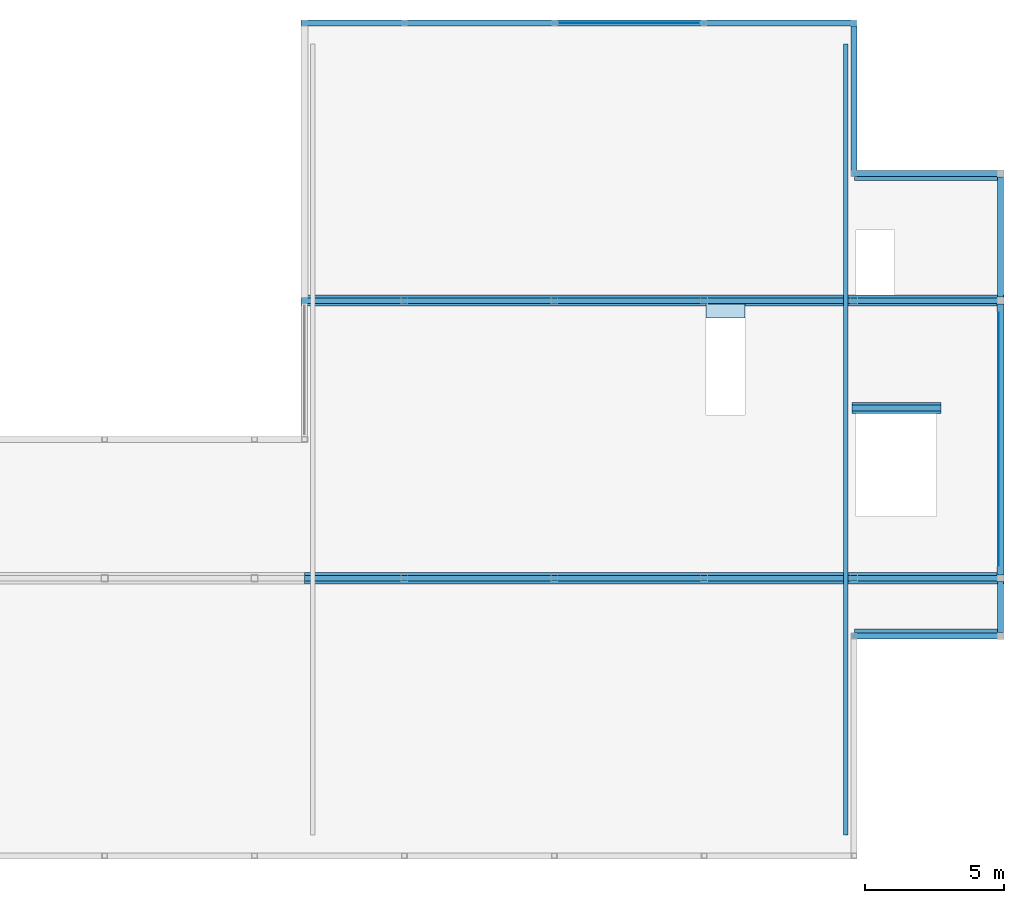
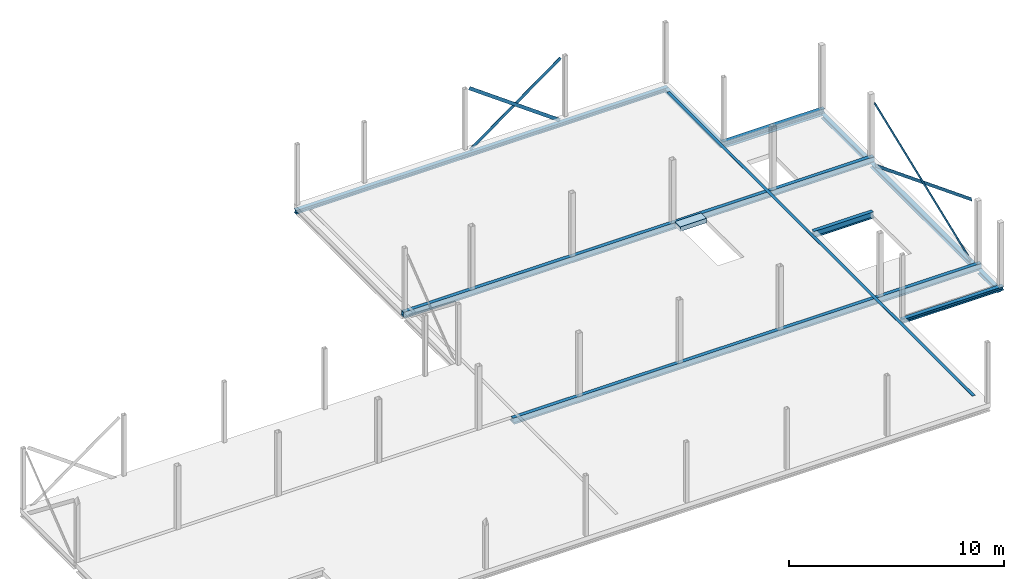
# One storey, part 7 of 7: 15 beams, 1 slab.
"""IFC2X3 building model written with IfcOpenShell, lengths in millimetres."""

from ifc_helpers import new_model, entity, si_unit, converted_unit, derived_unit, direction, frame, frame_2d, origin, origin_2d_with_axis, place, context, subcontext, project, spatial, polyline, circle_curve, parameter, trimmed, segment, composite_curve, rectangle, i_section, outline, extrude, boolean, source, transform, mapped, material, layer, layer_set, layer_usage, type_object, type_shapes, element, save


model = new_model("IFC2X3")

# Units and contexts
model_context = context("Model", 3, precision=0.01, world=origin(), true_north=direction((6.123031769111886e-17, 1.0)))
body_context = subcontext(model_context, "Body", "Model", "MODEL_VIEW")
ifc_project = project(units=[si_unit("LENGTHUNIT", "METRE", prefix="MILLI"), si_unit("AREAUNIT", "SQUARE_METRE"), si_unit("VOLUMEUNIT", "CUBIC_METRE"), converted_unit("PLANEANGLEUNIT", "DEGREE", entity("IfcPlaneAngleMeasure", 0.017453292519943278), si_unit("PLANEANGLEUNIT", "RADIAN"), dimensions=[0, 0, 0, 0, 0, 0, 0]), si_unit("MASSUNIT", "GRAM", prefix="KILO"), derived_unit("MASSDENSITYUNIT", [(si_unit("MASSUNIT", "GRAM", prefix="KILO"), 1), (si_unit("LENGTHUNIT", "METRE"), -3)]), derived_unit("IONCONCENTRATIONUNIT", [(si_unit("MASSUNIT", "GRAM", prefix="KILO"), 1), (si_unit("LENGTHUNIT", "METRE"), -3)]), derived_unit("MOMENTOFINERTIAUNIT", [(si_unit("LENGTHUNIT", "METRE"), 4)]), si_unit("TIMEUNIT", "SECOND"), si_unit("FREQUENCYUNIT", "HERTZ"), si_unit("THERMODYNAMICTEMPERATUREUNIT", "DEGREE_CELSIUS"), derived_unit("THERMALTRANSMITTANCEUNIT", [(si_unit("MASSUNIT", "GRAM", prefix="KILO"), 1), (si_unit("THERMODYNAMICTEMPERATUREUNIT", "KELVIN"), -1), (si_unit("TIMEUNIT", "SECOND"), -3)]), derived_unit("THERMALCONDUCTANCEUNIT", [(si_unit("MASSUNIT", "GRAM", prefix="KILO"), 1), (si_unit("THERMODYNAMICTEMPERATUREUNIT", "KELVIN"), -1), (si_unit("TIMEUNIT", "SECOND"), -3), (si_unit("LENGTHUNIT", "METRE"), 1)]), derived_unit("VOLUMETRICFLOWRATEUNIT", [(si_unit("LENGTHUNIT", "METRE", prefix="DECI"), 3), (si_unit("TIMEUNIT", "SECOND"), -1)]), derived_unit("MASSFLOWRATEUNIT", [(si_unit("MASSUNIT", "GRAM", prefix="KILO"), 1), (si_unit("TIMEUNIT", "SECOND"), -1)]), derived_unit("ROTATIONALFREQUENCYUNIT", [(si_unit("TIMEUNIT", "SECOND"), -1)]), si_unit("ELECTRICCURRENTUNIT", "AMPERE"), si_unit("ELECTRICVOLTAGEUNIT", "VOLT"), si_unit("POWERUNIT", "WATT"), si_unit("FORCEUNIT", "NEWTON", prefix="KILO"), si_unit("ILLUMINANCEUNIT", "LUX"), si_unit("LUMINOUSFLUXUNIT", "LUMEN"), si_unit("LUMINOUSINTENSITYUNIT", "CANDELA"), si_unit("ENERGYUNIT", "JOULE"), derived_unit("USERDEFINED", [(si_unit("MASSUNIT", "GRAM", prefix="KILO"), -1), (si_unit("LENGTHUNIT", "METRE"), -2), (si_unit("TIMEUNIT", "SECOND"), 3), (si_unit("LUMINOUSFLUXUNIT", "LUMEN"), 1)]), derived_unit("USERDEFINED", [(si_unit("MASSUNIT", "GRAM", prefix="KILO"), 1), (si_unit("TIMEUNIT", "SECOND"), -3), (si_unit("LENGTHUNIT", "METRE"), 3), (si_unit("ELECTRICCURRENTUNIT", "AMPERE"), -2)]), derived_unit("SOUNDPOWERUNIT", [(si_unit("MASSUNIT", "GRAM", prefix="KILO"), 1), (si_unit("TIMEUNIT", "SECOND"), -3), (si_unit("LENGTHUNIT", "METRE"), 2)]), derived_unit("SOUNDPRESSUREUNIT", [(si_unit("MASSUNIT", "GRAM", prefix="KILO"), 1), (si_unit("LENGTHUNIT", "METRE"), -1), (si_unit("TIMEUNIT", "SECOND"), -2)]), derived_unit("LINEARVELOCITYUNIT", [(si_unit("LENGTHUNIT", "METRE"), 1), (si_unit("TIMEUNIT", "SECOND"), -1)]), si_unit("PRESSUREUNIT", "PASCAL"), derived_unit("USERDEFINED", [(si_unit("MASSUNIT", "GRAM", prefix="KILO"), 1), (si_unit("LENGTHUNIT", "METRE"), -2), (si_unit("TIMEUNIT", "SECOND"), -2)]), derived_unit("LINEARFORCEUNIT", [(si_unit("MASSUNIT", "GRAM", prefix="KILO"), 1), (si_unit("TIMEUNIT", "SECOND"), -2)]), derived_unit("PLANARFORCEUNIT", [(si_unit("MASSUNIT", "GRAM", prefix="KILO"), 1), (si_unit("LENGTHUNIT", "METRE"), -1), (si_unit("TIMEUNIT", "SECOND"), -2)]), derived_unit("SPECIFICHEATCAPACITYUNIT", [(si_unit("THERMODYNAMICTEMPERATUREUNIT", "KELVIN"), -1), (si_unit("LENGTHUNIT", "METRE"), 2), (si_unit("TIMEUNIT", "SECOND"), -2)]), derived_unit("HEATFLUXDENSITYUNIT", [(si_unit("MASSUNIT", "GRAM", prefix="KILO"), 1), (si_unit("TIMEUNIT", "SECOND"), -3)]), derived_unit("HEATINGVALUEUNIT", [(si_unit("LENGTHUNIT", "METRE"), 2), (si_unit("TIMEUNIT", "SECOND"), -2)]), derived_unit("VAPORPERMEABILITYUNIT", [(si_unit("LENGTHUNIT", "METRE"), -1), (si_unit("TIMEUNIT", "SECOND"), 1)]), derived_unit("DYNAMICVISCOSITYUNIT", [(si_unit("MASSUNIT", "GRAM", prefix="KILO"), 1), (si_unit("TIMEUNIT", "SECOND"), -1), (si_unit("LENGTHUNIT", "METRE"), -1)]), derived_unit("THERMALEXPANSIONCOEFFICIENTUNIT", [(si_unit("THERMODYNAMICTEMPERATUREUNIT", "KELVIN"), -1)]), derived_unit("MODULUSOFELASTICITYUNIT", [(si_unit("MASSUNIT", "GRAM", prefix="KILO"), 1), (si_unit("LENGTHUNIT", "METRE"), -1), (si_unit("TIMEUNIT", "SECOND"), -2)]), derived_unit("ISOTHERMALMOISTURECAPACITYUNIT", [(si_unit("MASSUNIT", "GRAM", prefix="KILO"), -1), (si_unit("LENGTHUNIT", "METRE"), 3)]), derived_unit("MOISTUREDIFFUSIVITYUNIT", [(si_unit("TIMEUNIT", "SECOND"), -1), (si_unit("LENGTHUNIT", "METRE"), 2)]), derived_unit("MASSPERLENGTHUNIT", [(si_unit("MASSUNIT", "GRAM", prefix="KILO"), 1), (si_unit("LENGTHUNIT", "METRE"), -1)]), derived_unit("THERMALRESISTANCEUNIT", [(si_unit("MASSUNIT", "GRAM", prefix="KILO"), -1), (si_unit("TIMEUNIT", "SECOND"), 3), (si_unit("THERMODYNAMICTEMPERATUREUNIT", "KELVIN"), 1)]), derived_unit("ACCELERATIONUNIT", [(si_unit("LENGTHUNIT", "METRE"), 1), (si_unit("TIMEUNIT", "SECOND"), -2)]), derived_unit("ANGULARVELOCITYUNIT", [(si_unit("TIMEUNIT", "SECOND"), -1), (si_unit("PLANEANGLEUNIT", "RADIAN"), 1)]), derived_unit("LINEARSTIFFNESSUNIT", [(si_unit("MASSUNIT", "GRAM", prefix="KILO"), 1), (si_unit("TIMEUNIT", "SECOND"), -2)]), derived_unit("WARPINGCONSTANTUNIT", [(si_unit("LENGTHUNIT", "METRE"), 6)]), derived_unit("LINEARMOMENTUNIT", [(si_unit("MASSUNIT", "GRAM", prefix="KILO"), 1), (si_unit("LENGTHUNIT", "METRE"), 1), (si_unit("TIMEUNIT", "SECOND"), -2)]), derived_unit("TORQUEUNIT", [(si_unit("MASSUNIT", "GRAM", prefix="KILO"), 1), (si_unit("LENGTHUNIT", "METRE"), 2), (si_unit("TIMEUNIT", "SECOND"), -2)])], contexts=[model_context])

# Site, building, storey
site_placement = place(None, origin())
site = spatial("IfcSite", under=ifc_project, at=site_placement, Name="Default", CompositionType="ELEMENT")
building_placement = place(site_placement, origin())
building = spatial("IfcBuilding", under=site, at=building_placement, CompositionType="ELEMENT")
storey_placement = place(building_placement, frame((0.0, 0.0, 4000.0)))
storey = spatial("IfcBuildingStorey", under=building, at=storey_placement, Name="01 eerste verdieping", CompositionType="ELEMENT", Elevation=4000.0000000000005)

# Beams
ifc_material_1 = material(Name="VRI_staal")
beam_type_1 = type_object("IfcBeamType", Name="28_SFR_VRI_balk_staal_H:HEB220", PredefinedType="NOTDEFINED")
beam_1_placement = place(storey_placement, frame((33400.0, 40000.0, -345.0)))
element("IfcBeam", 1, at=beam_1_placement, inside=storey, type_object=beam_type_1, material=ifc_material_1, Name="28_SFR_VRI_balk_staal_H:HEB220", ObjectType="28_SFR_VRI_balk_staal_H:HEB220", context=body_context, shape_type="SweptSolid", body=[
    extrude(outline(composite_curve([segment(polyline([(94.0, -110.0), (110.0, -110.0)]), True, "CONTINUOUS"), segment(polyline([(110.0, -110.0), (110.0, 110.0)]), True, "CONTINUOUS"), segment(polyline([(110.0, 110.0), (94.0, 110.0)]), True, "CONTINUOUS"), segment(polyline([(94.0, 110.0), (94.0, 22.750000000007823)]), True, "CONTINUOUS"), segment(trimmed(circle_curve(frame_2d((76.0, 22.750000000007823), x_axis=(1.0, 0.0)), 17.999999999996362), [parameter(269.99999999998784)], [parameter(0.0)], True, "PARAMETER"), False, "CONTINUOUS"), segment(polyline([(76.0, 4.750000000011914), (-76.0, 4.750000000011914)]), True, "CONTINUOUS"), segment(trimmed(circle_curve(frame_2d((-76.0, 22.750000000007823), x_axis=(0.0, -1.0)), 17.9999999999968), [parameter(269.9999999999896)], [parameter(0.0)], True, "PARAMETER"), False, "CONTINUOUS"), segment(polyline([(-94.0, 22.750000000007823), (-94.0, 110.0)]), True, "CONTINUOUS"), segment(polyline([(-94.0, 110.0), (-110.0, 110.0)]), True, "CONTINUOUS"), segment(polyline([(-110.0, 110.0), (-110.0, -110.0)]), True, "CONTINUOUS"), segment(polyline([(-110.0, -110.0), (-94.0, -110.0)]), True, "CONTINUOUS"), segment(polyline([(-94.0, -110.0), (-94.0, -22.749999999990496)]), True, "CONTINUOUS"), segment(trimmed(circle_curve(frame_2d((-76.0, -22.749999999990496), x_axis=(-1.0, 0.0)), 17.9999999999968), [parameter(269.9999999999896)], [parameter(0.0)], True, "PARAMETER"), False, "CONTINUOUS"), segment(polyline([(-76.0, -4.749999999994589), (76.0, -4.749999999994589)]), True, "CONTINUOUS"), segment(trimmed(circle_curve(frame_2d((76.0, -22.749999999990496), x_axis=(0.0, 1.0)), 17.999999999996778), [parameter(269.9999999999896)], [parameter(0.0)], True, "PARAMETER"), False, "CONTINUOUS"), segment(polyline([(94.0, -22.749999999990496), (94.0, -110.0)]), True, "CONTINUOUS")], self_intersect=False)), frame((-120.0, 0.0, -110.0), z_axis=(1.0, 0.0, 0.0), x_axis=(0.0, 0.0, -1.0)), (0.0, 0.0, 1.0), 20030.000000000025),
])
beam_2_placement = place(storey_placement, frame((58475.0, 30000.0, -345.0), z_axis=(0.0, 0.0, 1.0), x_axis=(0.0, 1.0, 0.0)))
element("IfcBeam", 2, at=beam_2_placement, inside=storey, type_object=beam_type_1, material=ifc_material_1, Name="28_SFR_VRI_balk_staal_H:HEB220", ObjectType="28_SFR_VRI_balk_staal_H:HEB220", context=body_context, shape_type="SweptSolid", body=[
    extrude(outline(composite_curve([segment(polyline([(94.0, -110.0), (110.0, -110.0)]), True, "CONTINUOUS"), segment(polyline([(110.0, -110.0), (110.0, 110.0)]), True, "CONTINUOUS"), segment(polyline([(110.0, 110.0), (94.0, 110.0)]), True, "CONTINUOUS"), segment(polyline([(94.0, 110.0), (94.0, 22.749999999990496)]), True, "CONTINUOUS"), segment(trimmed(circle_curve(frame_2d((76.0, 22.749999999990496), x_axis=(1.0, 0.0)), 17.999999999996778), [parameter(269.9999999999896)], [parameter(0.0)], True, "PARAMETER"), False, "CONTINUOUS"), segment(polyline([(76.0, 4.749999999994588), (-76.0, 4.749999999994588)]), True, "CONTINUOUS"), segment(trimmed(circle_curve(frame_2d((-76.0, 22.749999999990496), x_axis=(0.0, -1.0)), 17.9999999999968), [parameter(269.9999999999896)], [parameter(0.0)], True, "PARAMETER"), False, "CONTINUOUS"), segment(polyline([(-94.0, 22.749999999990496), (-94.0, 110.0)]), True, "CONTINUOUS"), segment(polyline([(-94.0, 110.0), (-110.0, 110.0)]), True, "CONTINUOUS"), segment(polyline([(-110.0, 110.0), (-110.0, -110.0)]), True, "CONTINUOUS"), segment(polyline([(-110.0, -110.0), (-94.0, -110.0)]), True, "CONTINUOUS"), segment(polyline([(-94.0, -110.0), (-94.0, -22.750000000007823)]), True, "CONTINUOUS"), segment(trimmed(circle_curve(frame_2d((-76.0, -22.750000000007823), x_axis=(-1.0, 0.0)), 17.9999999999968), [parameter(269.9999999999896)], [parameter(0.0)], True, "PARAMETER"), False, "CONTINUOUS"), segment(polyline([(-76.0, -4.750000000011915), (76.0, -4.750000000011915)]), True, "CONTINUOUS"), segment(trimmed(circle_curve(frame_2d((76.0, -22.750000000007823), x_axis=(0.0, 1.0)), 17.999999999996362), [parameter(269.99999999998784)], [parameter(0.0)], True, "PARAMETER"), False, "CONTINUOUS"), segment(polyline([(94.0, -22.750000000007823), (94.0, -110.0)]), True, "CONTINUOUS")], self_intersect=False)), frame((125.0, 0.0, -110.0), z_axis=(1.0, 0.0, 0.0), x_axis=(0.0, 0.0, -1.0)), (0.0, 0.0, 1.0), 4324.999999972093),
])
beam_3_placement = place(storey_placement, frame((58475.0, 20000.0, -345.0), z_axis=(0.0, 0.0, 1.0), x_axis=(0.0, -1.0, 0.0)))
element("IfcBeam", 3, at=beam_3_placement, inside=storey, type_object=beam_type_1, material=ifc_material_1, Name="28_SFR_VRI_balk_staal_H:HEB220", ObjectType="28_SFR_VRI_balk_staal_H:HEB220", context=body_context, shape_type="SweptSolid", body=[
    extrude(outline(composite_curve([segment(polyline([(94.0, -110.0), (110.0, -110.0)]), True, "CONTINUOUS"), segment(polyline([(110.0, -110.0), (110.0, 110.0)]), True, "CONTINUOUS"), segment(polyline([(110.0, 110.0), (94.0, 110.0)]), True, "CONTINUOUS"), segment(polyline([(94.0, 110.0), (94.0, 22.7499999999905)]), True, "CONTINUOUS"), segment(trimmed(circle_curve(frame_2d((76.0, 22.7499999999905), x_axis=(1.0, 0.0)), 17.999999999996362), [parameter(269.99999999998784)], [parameter(0.0)], True, "PARAMETER"), False, "CONTINUOUS"), segment(polyline([(76.0, 4.749999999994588), (-76.0, 4.749999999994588)]), True, "CONTINUOUS"), segment(trimmed(circle_curve(frame_2d((-76.0, 22.7499999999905), x_axis=(0.0, -1.0)), 17.9999999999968), [parameter(269.9999999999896)], [parameter(0.0)], True, "PARAMETER"), False, "CONTINUOUS"), segment(polyline([(-94.0, 22.7499999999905), (-94.0, 110.0)]), True, "CONTINUOUS"), segment(polyline([(-94.0, 110.0), (-110.0, 110.0)]), True, "CONTINUOUS"), segment(polyline([(-110.0, 110.0), (-110.0, -110.0)]), True, "CONTINUOUS"), segment(polyline([(-110.0, -110.0), (-94.0, -110.0)]), True, "CONTINUOUS"), segment(polyline([(-94.0, -110.0), (-94.0, -22.75000000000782)]), True, "CONTINUOUS"), segment(trimmed(circle_curve(frame_2d((-76.0, -22.75000000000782), x_axis=(-1.0, 0.0)), 17.9999999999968), [parameter(269.9999999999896)], [parameter(0.0)], True, "PARAMETER"), False, "CONTINUOUS"), segment(polyline([(-76.0, -4.750000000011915), (76.0, -4.750000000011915)]), True, "CONTINUOUS"), segment(trimmed(circle_curve(frame_2d((76.0, -22.75000000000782), x_axis=(0.0, 1.0)), 17.999999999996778), [parameter(269.9999999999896)], [parameter(0.0)], True, "PARAMETER"), False, "CONTINUOUS"), segment(polyline([(94.0, -22.75000000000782), (94.0, -110.0)]), True, "CONTINUOUS")], self_intersect=False)), frame((125.0, 0.0, -110.0), z_axis=(1.0, 0.0, 0.0), x_axis=(0.0, 0.0, -1.0)), (0.0, 0.0, 1.0), 1825.0000000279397),
])
beam_4_placement = place(storey_placement, frame((53200.0, 40000.0, -345.0), z_axis=(0.0, 0.0, 1.0), x_axis=(0.0, -1.0, 0.0)))
element("IfcBeam", 4, at=beam_4_placement, inside=storey, type_object=beam_type_1, material=ifc_material_1, Name="28_SFR_VRI_balk_staal_H:HEB220", ObjectType="28_SFR_VRI_balk_staal_H:HEB220", context=body_context, shape_type="SweptSolid", body=[
    extrude(outline(composite_curve([segment(polyline([(94.0, -110.0), (110.0, -110.0)]), True, "CONTINUOUS"), segment(polyline([(110.0, -110.0), (110.0, 110.0)]), True, "CONTINUOUS"), segment(polyline([(110.0, 110.0), (94.0, 110.0)]), True, "CONTINUOUS"), segment(polyline([(94.0, 110.0), (94.0, 22.749999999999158)]), True, "CONTINUOUS"), segment(trimmed(circle_curve(frame_2d((76.0, 22.749999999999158), x_axis=(1.0, 0.0)), 17.999999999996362), [parameter(269.99999999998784)], [parameter(0.0)], True, "PARAMETER"), False, "CONTINUOUS"), segment(polyline([(76.0, 4.750000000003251), (-76.0, 4.750000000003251)]), True, "CONTINUOUS"), segment(trimmed(circle_curve(frame_2d((-76.0, 22.749999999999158), x_axis=(0.0, -1.0)), 17.9999999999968), [parameter(269.9999999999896)], [parameter(0.0)], True, "PARAMETER"), False, "CONTINUOUS"), segment(polyline([(-94.0, 22.749999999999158), (-94.0, 110.0)]), True, "CONTINUOUS"), segment(polyline([(-94.0, 110.0), (-110.0, 110.0)]), True, "CONTINUOUS"), segment(polyline([(-110.0, 110.0), (-110.0, -110.0)]), True, "CONTINUOUS"), segment(polyline([(-110.0, -110.0), (-94.0, -110.0)]), True, "CONTINUOUS"), segment(polyline([(-94.0, -110.0), (-94.0, -22.74999999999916)]), True, "CONTINUOUS"), segment(trimmed(circle_curve(frame_2d((-76.0, -22.74999999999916), x_axis=(-1.0, 0.0)), 17.9999999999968), [parameter(269.9999999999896)], [parameter(0.0)], True, "PARAMETER"), False, "CONTINUOUS"), segment(polyline([(-76.0, -4.7500000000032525), (76.0, -4.7500000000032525)]), True, "CONTINUOUS"), segment(trimmed(circle_curve(frame_2d((76.0, -22.74999999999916), x_axis=(0.0, 1.0)), 17.999999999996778), [parameter(269.9999999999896)], [parameter(0.0)], True, "PARAMETER"), False, "CONTINUOUS"), segment(polyline([(94.0, -22.74999999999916), (94.0, -110.0)]), True, "CONTINUOUS")], self_intersect=False)), frame((110.0, 0.0, -110.0), z_axis=(1.0, 0.0, 0.0), x_axis=(0.0, 0.0, -1.0)), (0.0, 0.0, 1.0), 5215.000000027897),
])
beam_type_2 = type_object("IfcBeamType", Name="28_SFR_VRI_balk_staal_THQ:THQ265x8-190x20-400x20", PredefinedType="NOTDEFINED")
beam_5_placement = place(storey_placement, frame((33400.0, 30000.0, -80.0)))
element("IfcBeam", 5, at=beam_5_placement, inside=storey, type_object=beam_type_2, material=ifc_material_1, Name="28_SFR_VRI_balk_staal_THQ:THQ265x8-190x20-400x20", ObjectType="28_SFR_VRI_balk_staal_THQ:THQ265x8-190x20-400x20", context=body_context, shape_type="SweptSolid", body=[
    boolean("DIFFERENCE", extrude(outline(polyline([(61.250000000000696, -200.0), (81.24999999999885, -200.0), (81.24999999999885, 200.0), (61.24999999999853, 200.0), (61.24999999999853, 103.0), (-203.74999999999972, 103.0), (-203.74999999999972, -103.0), (61.250000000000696, -103.0), (61.250000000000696, -200.0)])), frame((-120.0, 0.0, -203.75000000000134), z_axis=(1.0, 0.0, 0.0), x_axis=(0.0, 0.0, -1.0)), (0.0, 0.0, 1.0), 25319.999999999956), extrude(rectangle(XDim=245.00000000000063, YDim=190.0000000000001, at=frame_2d((0.0, 0.0), x_axis=(0.0, 1.0))), frame((25200.0, 0.0, -142.50000000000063), z_axis=(-1.0, 0.0, 0.0), x_axis=(0.0, 1.0, 0.0)), (0.0, 0.0, 1.0), 25319.999999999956)),
])
beam_6_placement = place(storey_placement, frame((33400.0, 20000.0, -80.0)))
element("IfcBeam", 6, at=beam_6_placement, inside=storey, type_object=beam_type_2, material=ifc_material_1, Name="28_SFR_VRI_balk_staal_THQ:THQ265x8-190x20-400x20", ObjectType="28_SFR_VRI_balk_staal_THQ:THQ265x8-190x20-400x20", context=body_context, shape_type="SweptSolid", body=[
    boolean("DIFFERENCE", extrude(outline(polyline([(61.250000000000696, -200.0), (81.24999999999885, -200.0), (81.24999999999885, 200.0), (61.24999999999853, 200.0), (61.24999999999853, 103.0), (-203.74999999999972, 103.0), (-203.74999999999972, -103.0), (61.250000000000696, -103.0), (61.250000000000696, -200.0)])), frame((0.0, 0.0, -203.75000000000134), z_axis=(1.0, 0.0, 0.0), x_axis=(0.0, 0.0, -1.0)), (0.0, 0.0, 1.0), 25199.99999999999), extrude(rectangle(XDim=245.00000000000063, YDim=190.0000000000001, at=frame_2d((0.0, 0.0), x_axis=(0.0, 1.0))), frame((25200.0, 0.0, -142.50000000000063), z_axis=(-1.0, 0.0, 0.0), x_axis=(0.0, 1.0, 0.0)), (0.0, 0.0, 1.0), 25199.99999999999)),
])
beam_7_placement = place(storey_placement, frame((53200.0, 26130.0, -80.0)))
element("IfcBeam", 7, at=beam_7_placement, inside=storey, type_object=beam_type_2, material=ifc_material_1, Name="28_SFR_VRI_balk_staal_THQ:THQ265x8-190x20-400x20", ObjectType="28_SFR_VRI_balk_staal_THQ:THQ265x8-190x20-400x20", context=body_context, shape_type="SweptSolid", body=[
    boolean("DIFFERENCE", extrude(outline(polyline([(61.250000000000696, -200.0), (81.24999999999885, -200.0), (81.24999999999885, 200.0), (61.24999999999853, 200.0), (61.24999999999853, 103.0), (-203.74999999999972, 103.0), (-203.74999999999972, -103.0), (61.250000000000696, -103.0), (61.250000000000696, -200.0)])), frame((-75.0, 0.0, -203.75000000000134), z_axis=(1.0, 0.0, 0.0), x_axis=(0.0, 0.0, -1.0)), (0.0, 0.0, 1.0), 3199.9999999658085), extrude(rectangle(XDim=245.00000000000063, YDim=190.0000000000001, at=frame_2d((0.0, 0.0), x_axis=(0.0, 1.0))), frame((3125.0, 0.0, -142.50000000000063), z_axis=(-1.0, 0.0, 0.0), x_axis=(0.0, 1.0, 0.0)), (0.0, 0.0, 1.0), 3199.9999999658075)),
])
beam_type_3 = type_object("IfcBeamType", Name="28_SFR_VRI_balk_staal_SFB_eenzijdiig:HEB220_340x15", PredefinedType="BEAM", material=ifc_material_1)
shared_shape_1 = source(origin(), body_context, "Body", "SweptSolid", [
    extrude(i_section(OverallWidth=219.99999999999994, OverallDepth=219.99999999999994, WebThickness=9.49999999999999, FlangeThickness=16.000000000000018, FilletRadius=23.999999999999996, at=frame_2d((3.552713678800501e-14, 1.4210854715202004e-14), x_axis=(0.0, 1.0))), frame((-2747.4999999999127, 0.0, 0.0), z_axis=(1.0, 0.0, 0.0), x_axis=(0.0, 0.0, -1.0)), (0.0, 0.0, 1.0), 5509.9999999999),
    extrude(rectangle(XDim=14.999999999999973, YDim=340.0, at=origin_2d_with_axis()), frame((-2627.4999999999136, 85.0, -117.50000000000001), z_axis=(1.0, 0.0, 0.0), x_axis=(0.0, 0.0, -1.0)), (0.0, 0.0, 1.0), 5269.999999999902),
])
type_shapes(beam_type_3, [shared_shape_1])
beam_8_placement = place(storey_placement, frame((55837.50000000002, 17925.0, -235.0)))
element("IfcBeam", 8, at=beam_8_placement, inside=storey, type_object=beam_type_3, material=ifc_material_1, Name="28_SFR_VRI_balk_staal_SFB_eenzijdiig:HEB220_340x15", ObjectType="28_SFR_VRI_balk_staal_SFB_eenzijdiig:HEB220_340x15", context=body_context, shape_type="MappedRepresentation", body=[
    mapped(shared_shape_1, transform((0.0, 0.0, 0.0), scale=1.0)),
])
beam_type_4 = type_object("IfcBeamType", Name="28_SFR_VRI_balk_staal_SFB_eenzijdiig:HEB220_340x15", PredefinedType="BEAM", material=ifc_material_1)
shared_shape_2 = source(origin(), body_context, "Body", "SweptSolid", [
    extrude(i_section(OverallWidth=219.99999999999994, OverallDepth=219.99999999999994, WebThickness=9.49999999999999, FlangeThickness=16.000000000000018, FilletRadius=23.999999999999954, at=frame_2d((3.552713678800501e-14, -2.1316282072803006e-14), x_axis=(0.0, 1.0))), frame((-2747.4999999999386, 0.0, 0.0), z_axis=(1.0, 0.0, 0.0), x_axis=(0.0, 0.0, -1.0)), (0.0, 0.0, 1.0), 5509.999999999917),
    extrude(rectangle(XDim=14.999999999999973, YDim=340.0, at=origin_2d_with_axis()), frame((-2627.4999999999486, -85.0, -117.50000000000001), z_axis=(1.0, 0.0, 0.0), x_axis=(0.0, 0.0, -1.0)), (0.0, 0.0, 1.0), 5269.999999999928),
])
type_shapes(beam_type_4, [shared_shape_2])
beam_9_placement = place(storey_placement, frame((55837.50000000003, 34575.0, -235.0)))
element("IfcBeam", 9, at=beam_9_placement, inside=storey, type_object=beam_type_4, material=ifc_material_1, Name="28_SFR_VRI_balk_staal_SFB_eenzijdiig:HEB220_340x15", ObjectType="28_SFR_VRI_balk_staal_SFB_eenzijdiig:HEB220_340x15", context=body_context, shape_type="MappedRepresentation", body=[
    mapped(shared_shape_2, transform((0.0, 0.0, 0.0), scale=1.0)),
])
beam_type_5 = type_object("IfcBeamType", Name="28_SFR_VRI_balk_staal_H:HEB240", PredefinedType="NOTDEFINED")
beam_10_placement = place(storey_placement, frame((58475.0, 30000.0, -345.0), z_axis=(0.0, 0.0, 1.0), x_axis=(0.0, -1.0, 0.0)))
element("IfcBeam", 10, at=beam_10_placement, inside=storey, type_object=beam_type_5, material=ifc_material_1, Name="28_SFR_VRI_balk_staal_H:HEB240", ObjectType="28_SFR_VRI_balk_staal_H:HEB240", context=body_context, shape_type="SweptSolid", body=[
    extrude(outline(composite_curve([segment(polyline([(103.0, -120.0), (120.0, -120.0)]), True, "CONTINUOUS"), segment(polyline([(120.0, -120.0), (120.0, 120.0)]), True, "CONTINUOUS"), segment(polyline([(120.0, 120.0), (103.0, 120.0)]), True, "CONTINUOUS"), segment(polyline([(103.0, 120.0), (103.0, 26.0)]), True, "CONTINUOUS"), segment(trimmed(circle_curve(frame_2d((82.0, 26.0), x_axis=(1.0, 0.0)), 21.000000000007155), [parameter(270.00000000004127)], [parameter(0.0)], True, "PARAMETER"), False, "CONTINUOUS"), segment(polyline([(82.0, 5.0), (-82.0, 5.0)]), True, "CONTINUOUS"), segment(trimmed(circle_curve(frame_2d((-82.0, 26.0), x_axis=(0.0, -1.0)), 21.000000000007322), [parameter(270.00000000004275)], [parameter(0.0)], True, "PARAMETER"), False, "CONTINUOUS"), segment(polyline([(-103.0, 26.0), (-103.0, 120.0)]), True, "CONTINUOUS"), segment(polyline([(-103.0, 120.0), (-120.0, 120.0)]), True, "CONTINUOUS"), segment(polyline([(-120.0, 120.0), (-120.0, -120.0)]), True, "CONTINUOUS"), segment(polyline([(-120.0, -120.0), (-103.0, -120.0)]), True, "CONTINUOUS"), segment(polyline([(-103.0, -120.0), (-103.0, -26.0)]), True, "CONTINUOUS"), segment(trimmed(circle_curve(frame_2d((-82.0, -26.0), x_axis=(-1.0, 0.0)), 21.00000000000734), [parameter(270.00000000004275)], [parameter(0.0)], True, "PARAMETER"), False, "CONTINUOUS"), segment(polyline([(-82.0, -5.0), (82.0, -5.0)]), True, "CONTINUOUS"), segment(trimmed(circle_curve(frame_2d((82.0, -26.0), x_axis=(0.0, 1.0)), 21.0000000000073), [parameter(270.00000000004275)], [parameter(0.0)], True, "PARAMETER"), False, "CONTINUOUS"), segment(polyline([(103.0, -26.0), (103.0, -120.0)]), True, "CONTINUOUS")], self_intersect=False)), frame((125.0, 0.0, -120.0), z_axis=(1.0, 0.0, 0.0), x_axis=(0.0, 0.0, -1.0)), (0.0, 0.0, 1.0), 9750.000000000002),
])
beam_type_6 = type_object("IfcBeamType", Name="28_SFR_VRI_balk_staal_strip:10x180", PredefinedType="NOTDEFINED")
beam_11_placement = place(storey_placement, frame((58400.0, 20148.282743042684, 3397.021447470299), z_axis=(0.0, 0.364153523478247, 0.9313389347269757), x_axis=(0.0, 0.9313389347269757, -0.364153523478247)))
element("IfcBeam", 11, at=beam_11_placement, inside=storey, type_object=beam_type_6, material=ifc_material_1, Name="28_SFR_VRI_balk_staal_strip:10x180", ObjectType="28_SFR_VRI_balk_staal_strip:10x180", context=body_context, shape_type="SweptSolid", body=[
    extrude(rectangle(XDim=179.9999999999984, YDim=9.999999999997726, at=frame_2d((-1.0160761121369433e-12, 0.0), x_axis=(1.0, 0.0))), frame((350.0, 0.0, 0.0), z_axis=(1.0, 0.0, 0.0), x_axis=(0.0, 0.0, -1.0)), (0.0, 0.0, 1.0), 9634.93741124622),
])
beam_12_placement = place(storey_placement, frame((58400.0, 29851.717256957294, 3397.021447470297), z_axis=(0.0, -0.3641535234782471, 0.9313389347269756), x_axis=(0.0, -0.9313389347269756, -0.3641535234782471)))
element("IfcBeam", 12, at=beam_12_placement, inside=storey, type_object=beam_type_6, material=ifc_material_1, Name="28_SFR_VRI_balk_staal_strip:10x180", ObjectType="28_SFR_VRI_balk_staal_strip:10x180", context=body_context, shape_type="SweptSolid", body=[
    extrude(rectangle(XDim=179.99999999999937, YDim=9.999999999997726, at=frame_2d((-4.902744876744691e-13, 0.0), x_axis=(1.0, 0.0))), frame((350.0, 0.0, 0.0), z_axis=(1.0, 0.0, 0.0), x_axis=(0.0, 0.0, -1.0)), (0.0, 0.0, 1.0), 9634.937411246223),
])
beam_13_placement = place(storey_placement, frame((42400.0, 40000.0, 3455.0), z_axis=(0.5864758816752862, 0.0, 0.809966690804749), x_axis=(0.809966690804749, 0.0, -0.5864758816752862)))
element("IfcBeam", 13, at=beam_13_placement, inside=storey, type_object=beam_type_6, material=ifc_material_1, Name="28_SFR_VRI_balk_staal_strip:10x180", ObjectType="28_SFR_VRI_balk_staal_strip:10x180", context=body_context, shape_type="SweptSolid", body=[
    extrude(rectangle(XDim=179.99999999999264, YDim=9.999999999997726, at=frame_2d((-4.405364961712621e-13, 0.0), x_axis=(1.0, 0.0))), frame((300.0, 0.0, 0.0), z_axis=(1.0, 0.0, 0.0), x_axis=(0.0, 0.0, -1.0)), (0.0, 0.0, 1.0), 6016.940827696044),
])
beam_14_placement = place(storey_placement, frame((47800.0, 40000.0, 3455.0), z_axis=(-0.5864758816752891, 0.0, 0.8099666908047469), x_axis=(-0.8099666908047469, 0.0, -0.5864758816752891)))
element("IfcBeam", 14, at=beam_14_placement, inside=storey, type_object=beam_type_6, material=ifc_material_1, Name="28_SFR_VRI_balk_staal_strip:10x180", ObjectType="28_SFR_VRI_balk_staal_strip:10x180", context=body_context, shape_type="SweptSolid", body=[
    extrude(rectangle(XDim=180.00000000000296, YDim=9.999999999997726, at=frame_2d((4.298783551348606e-12, 8.662848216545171e-12), x_axis=(1.0, 0.0))), frame((300.0, 0.0, 0.0), z_axis=(1.0, 0.0, 0.0), x_axis=(0.0, 0.0, -1.0)), (0.0, 0.0, 1.0), 6016.940827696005),
])
beam_type_7 = type_object("IfcBeamType", Name="28_SFR_VRI_balk_staal_strip:160x5", PredefinedType="NOTDEFINED")
beam_15_placement = place(storey_placement, frame((52900.0, 10750.0, -70.0), z_axis=(0.0, 0.0, 1.0), x_axis=(0.0, 1.0, 0.0)))
element("IfcBeam", 15, at=beam_15_placement, inside=storey, type_object=beam_type_7, material=ifc_material_1, Name="28_SFR_VRI_balk_staal_strip:160x5", ObjectType="28_SFR_VRI_balk_staal_strip:160x5", context=body_context, shape_type="SweptSolid", body=[
    extrude(rectangle(XDim=4.999999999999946, YDim=159.9999999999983, at=frame_2d((0.0, 8.661515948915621e-12), x_axis=(1.0, 0.0))), frame((0.0, 0.0, -2.5000000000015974), z_axis=(1.0, 0.0, 0.0), x_axis=(0.0, 0.0, -1.0)), (0.0, 0.0, 1.0), 28500.000000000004),
])

# Slab
ifc_material_2 = material(Name="VRI_beton_ihwg")
ifc_layer = layer(ifc_material_2, 260.0)
ifc_layer_set = layer_set([ifc_layer], Name="Floor:23_FL_VRI_betonvloer_260")
ifc_layer_usage = layer_usage(ifc_layer_set, "AXIS3", "POSITIVE", 0.0)
slab_type = type_object("IfcSlabType", Name="Floor:23_FL_VRI_betonvloer_260", PredefinedType="FLOOR", material=ifc_layer_set)
slab_placement = place(storey_placement, origin())
element("IfcSlab", 16, at=slab_placement, inside=storey, type_object=slab_type, material=ifc_layer_usage, Name="Floor:23_FL_VRI_betonvloer_260", ObjectType="Floor:23_FL_VRI_betonvloer_260", PredefinedType="FLOOR", context=body_context, shape_type="SweptSolid", body=[
    extrude(rectangle(XDim=498.9999999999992, YDim=1411.9999999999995, at=frame_2d((0.0, -4.320099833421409e-12), x_axis=(1.0, 0.0))), frame((48569.0, 29624.499999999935, 0.0), z_axis=(0.0, 0.0, -1.0), x_axis=(0.0, 1.0, 0.0)), (0.0, 0.0, 1.0), 259.9999999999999),
])

save(model, "model.ifc")
